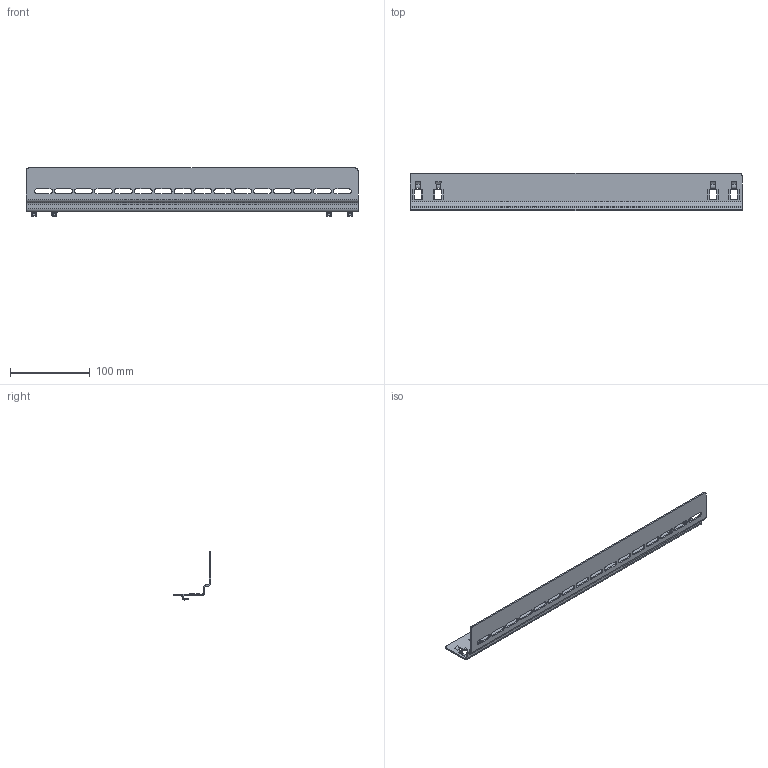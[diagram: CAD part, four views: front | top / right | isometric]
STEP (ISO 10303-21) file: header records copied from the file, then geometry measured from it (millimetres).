
FILE_DESCRIPTION (( 'STEP AP203' ), '1' );
FILE_NAME ('pg6.STEP', '2012-01-17T18:32:08', ( 'Hoffman User' ), ( 'Hoffman Enclosures' ), 'SwSTEP 2.0', 'SolidWorks 2010', '' );
FILE_SCHEMA (( 'CONFIG_CONTROL_DESIGN' ));
Length unit declared in the file: inch
Products named in the file (2): 87922315; pg6
Assembly tree (1 placements, depth 2):
  pg6
    87922315
Bounding box: 416.79 x 46.99 x 60.3 mm (x, y, z)
Volume: 68817.4 mm3; surface area: 79483.4 mm2
Topology: 1 solids, 1 shells, 258 faces, 680 edges, 424 vertices
Faces by surface type: plane 152, cylinder 74, bspline 32
Entity records: 9140 total; most frequent: CARTESIAN_POINT 2814, ORIENTED_EDGE 1360, DIRECTION 1136, EDGE_CURVE 680, VECTOR 476, LINE 476, VERTEX_POINT 424, AXIS2_PLACEMENT_3D 330
